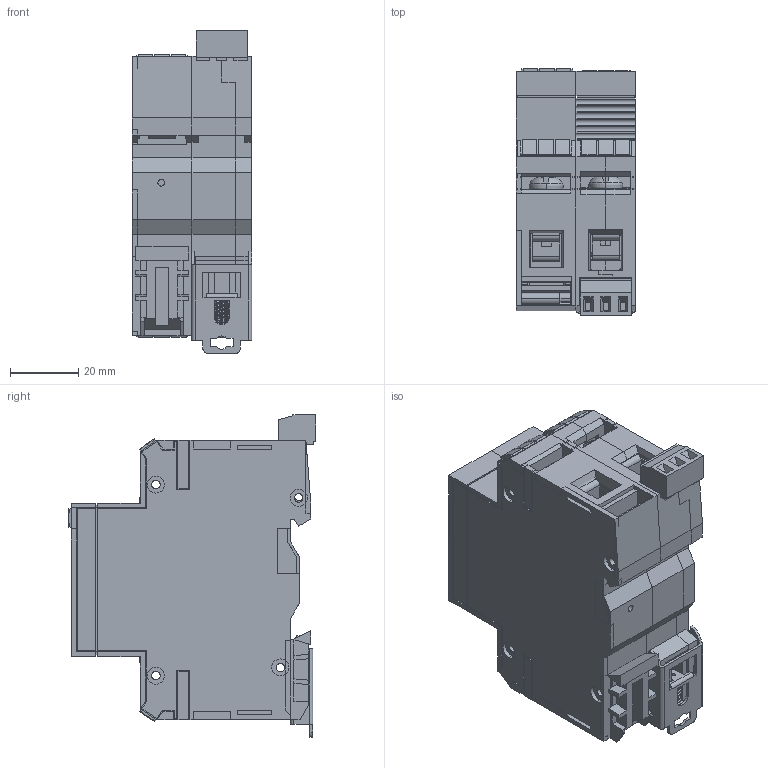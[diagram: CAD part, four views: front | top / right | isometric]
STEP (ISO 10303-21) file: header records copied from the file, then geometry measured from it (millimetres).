
FILE_DESCRIPTION (( 'STEP AP214' ), '1' );
FILE_NAME ('OptiIDn OM 1 ïîëþñ + OMu ñ ñèãíàëèçàòîðîì.STEP', '2022-12-06T11:24:57', ( '' ), ( '' ), 'SwSTEP 2.0', 'SolidWorks 2018', '' );
FILE_SCHEMA (( 'AUTOMOTIVE_DESIGN' ));
Length unit declared in the file: millimetre
Products named in the file (25): OptiIDn OM 1 ïîëþñ + OMu ñ ñèãíàëèçàòîðîì; ﾂ鏆鮏 01; 暑痫篑 镳噔 矬耱铋; Êîäèðîâî÷íàÿ âñòàâêà; Âûâîä 53-027 îáðåçàíûé äëÿ ñàéòà; Ïåðåìû÷êà 03-025; Ìåòêà 21-086; Êîðïóñ ëåâûé ïóñòîé; Çàãëóøêà ìîäóëÿ Ï 50-083; 桎蝂鳪鳿僗闉 47-016 瀀嚦鍣; Çàùåëêà 11-010; Ñüåìíûé ìîäóëü 01 ïóñòîé; 扻豵鵨 01 瀀嚦鍣; Ïðóæèíà çàùåëêè 13-007; ÎÌu ïóñòîé_„«ï á¡®àª¨; 署赅 01 矬耱铋; Êîëîäêà øòåêåðíàÿ 540-2022 21-084; 鎔艜 03-024; Ïëàñòèíà 52-040_Š1; Êîëîäêà 03-039 ïîä íîâûé ãàáàðèòû; Âñòàâêà êîäèðîâî÷íàÿ 50-082; Çàãëóøêà ìîäóëÿ Ë 50-084; Îñíîâàíèå ìîäóëÿ Ë 50-094(ïóñòîé ñ èçìåíåíûì ãàáàðèòîì)_„«ï ç¥àâ¥¦ ; Îñíîâàíèå ìîäóëÿ Ï 50-095 ïóñòîé; ﾈ淸韭瑣ⅱ 01
Assembly tree (41 placements, depth 3):
  OptiIDn OM 1 ïîëþñ + OMu ñ ñèãíàëèçàòîðîì
    Îñíîâàíèå ìîäóëÿ Ë 50-094(ïóñòîé ñ èçìåíåíûì ãàáàðèòîì)_„«ï ç¥àâ¥¦ 
    Îñíîâàíèå ìîäóëÿ Ï 50-095 ïóñòîé
    Âûâîä 53-027 îáðåçàíûé äëÿ ñàéòà  x2
    Çàãëóøêà ìîäóëÿ Ë 50-084
    Çàãëóøêà ìîäóëÿ Ï 50-083
    Êîëîäêà 03-039 ïîä íîâûé ãàáàðèòû  x2
    Âñòàâêà êîäèðîâî÷íàÿ 50-082
    鎔艜 03-024  x2
    Ïëàñòèíà 52-040_Š1
    Ìåòêà 21-086  x2
    Ñüåìíûé ìîäóëü 01 ïóñòîé
      扻豵鵨 01 瀀嚦鍣
      署赅 01 矬耱铋
      Êîäèðîâî÷íàÿ âñòàâêà
      ﾂ鏆鮏 01  x2
      Ìåòêà 21-086
    桎蝂鳪鳿僗闉 47-016 瀀嚦鍣
    Êîëîäêà øòåêåðíàÿ 540-2022 21-084
    Çàùåëêà 11-010
    Ïðóæèíà çàùåëêè 13-007
    Ïåðåìû÷êà 03-025
    ÎÌu ïóñòîé_„«ï á¡®àª¨
      Êîðïóñ ëåâûé ïóñòîé
      ﾈ淸韭瑣ⅱ 01
      暑痫篑 镳噔 矬耱铋
      Çàãëóøêà ìîäóëÿ Ë 50-084
      Çàãëóøêà ìîäóëÿ Ï 50-083
      Ìåòêà 21-086  x3
      Âûâîä 53-027 îáðåçàíûé äëÿ ñàéòà  x2
      鎔艜 03-024  x2
      Êîëîäêà 03-039 ïîä íîâûé ãàáàðèòû  x2
Bounding box: 35 x 72.58 x 94.6 mm (x, y, z)
Volume: 101503.2 mm3; surface area: 92810.3 mm2
Topology: 39 solids, 39 shells, 3550 faces, 9768 edges, 6351 vertices
Faces by surface type: plane 2849, cylinder 663, torus 16, cone 14, bspline 8
Entity records: 80410 total; most frequent: CARTESIAN_POINT 15575, ORIENTED_EDGE 13248, DIRECTION 12239, EDGE_CURVE 6624, LINE 5797, VECTOR 5797, VERTEX_POINT 4323, AXIS2_PLACEMENT_3D 3221
